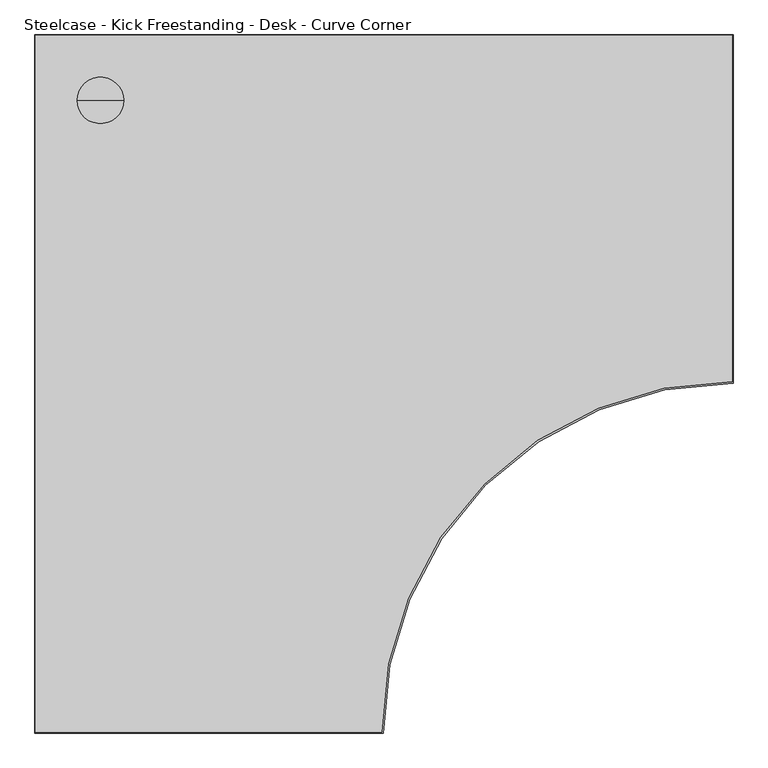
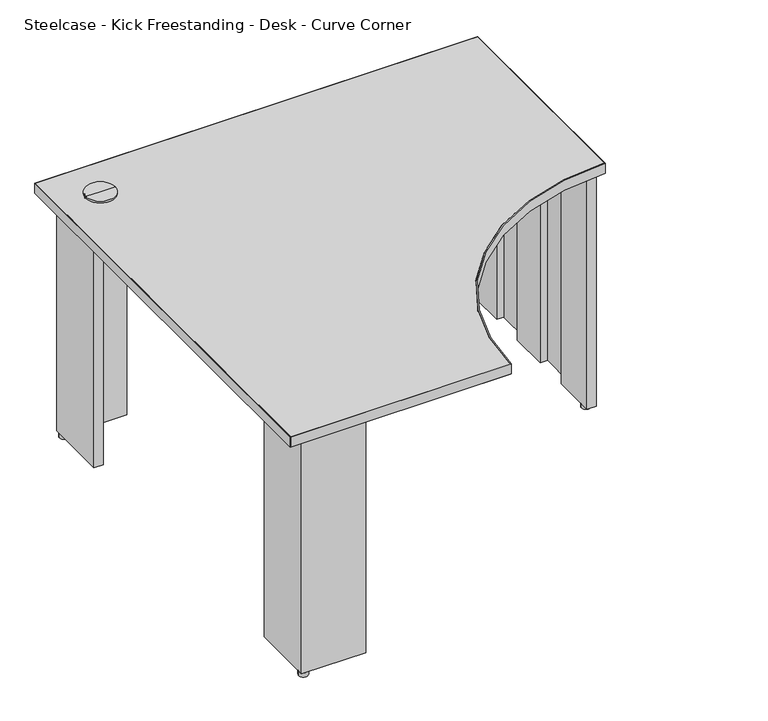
"""IFC4 building model written with IfcOpenShell, lengths in millimetres: furniture geometry, Steelcase - Kick Freestanding - Desk - Curve Corner : 24D x 48W - Right Full End Panel/Left Clear Access Support - LPL."""

from ifc_helpers import new_model, si_unit, point, frame, frame_2d, origin, origin_with_axes, place, context, project, spatial, polyline, circle_curve, trimmed, segment, composite_curve, outline, extrude, source, transform, mapped, element, save
from ifc_brep_helpers import plane_surface, cylinder_surface, advanced_brep


def steelcase_kick_freestanding_desk_curve_corner_b5b7e844(model_context):
    return source(origin(), model_context, "Body", "SolidModel", [
        extrude(outline(composite_curve([segment(trimmed(circle_curve(frame_2d((1191.2853521, -565.8064761)), 12.7), [point((1178.5853521, -565.8064761))], [point((1203.9853521, -565.8064761))], False, "CARTESIAN"), True, "CONTINUOUS"), segment(trimmed(circle_curve(frame_2d((1191.2853521, -565.8064761)), 12.7), [point((1203.9853521, -565.8064761))], [point((1178.5853521, -565.8064761))], False, "CARTESIAN"), True, "CONTINUOUS")], self_intersect=False)), origin_with_axes(), (0.0, 0.0, 1.0), 12.446),
        extrude(outline(polyline([(215.8999939, -63.5), (63.5, -63.5), (63.5, -215.8999939), (38.1, -215.8999939), (38.1, -38.1), (215.8999939, -38.1), (215.8999939, -63.5)])), frame((0.0, 0.0, 12.446), z_axis=(0.0, 0.0, 1.0), x_axis=(1.0, 0.0, 0.0)), (0.0, 0.0, 1.0), 682.498),
        extrude(outline(polyline([(1026.4393822, -63.5), (1026.4393822, -38.1), (1204.2393579, -38.1), (1204.2393579, -592.582), (1178.3313463, -592.582), (1178.3313463, -469.5444), (1198.498945, -469.5444), (1198.498945, -369.824), (1178.3313463, -369.824), (1178.3313463, -261.0866), (1198.498945, -261.0866), (1198.498945, -161.3662), (1178.3313463, -161.3662), (1178.3313463, -63.5), (1026.4393822, -63.5)])), frame((0.0, 0.0, 12.446), z_axis=(0.0, 0.0, 1.0), x_axis=(1.0, 0.0, 0.0)), (0.0, 0.0, 1.0), 682.498),
        advanced_brep(
        [(114.3, -114.3, 728.98), (154.94, -114.3, 728.98), (73.66, -114.3, 728.98), (76.1699693, -114.3, 694.944), (152.4300307, -114.3, 694.944), (114.3, -114.3, 694.944), (76.1699693, -114.3, 723.9), (152.4300307, -114.3, 723.9), (73.66, -114.3, 723.9), (154.94, -114.3, 723.9)],
        [
            (0, 1),
            (1, 2, circle_curve(frame((114.3, -114.3, 728.98), z_axis=(0.0, 0.0, 1.0), x_axis=(1.0, 0.0, 0.0)), 40.64)),
            (2, 0),
            (2, 1, circle_curve(frame((114.3, -114.3, 728.98), z_axis=(0.0, 0.0, 1.0), x_axis=(1.0, 0.0, 0.0)), 40.64)),
            (3, 4, circle_curve(frame((114.3, -114.3, 694.944), z_axis=(0.0, 0.0, -1.0), x_axis=(1.0, 0.0, 0.0)), 38.1300307)),
            (4, 5),
            (5, 3),
            (4, 3, circle_curve(frame((114.3, -114.3, 694.944), z_axis=(0.0, 0.0, -1.0), x_axis=(1.0, 0.0, 0.0)), 38.1300307)),
            (6, 7, circle_curve(frame((114.3, -114.3, 723.9), z_axis=(0.0, 0.0, -1.0), x_axis=(1.0, 0.0, 0.0)), 38.1300307)),
            (7, 4),
            (3, 6),
            (7, 6, circle_curve(frame((114.3, -114.3, 723.9), z_axis=(0.0, 0.0, -1.0), x_axis=(1.0, 0.0, 0.0)), 38.1300307)),
            (8, 9, circle_curve(frame((114.3, -114.3, 723.9), z_axis=(0.0, 0.0, -1.0), x_axis=(1.0, 0.0, 0.0)), 40.64)),
            (9, 7),
            (6, 8),
            (9, 8, circle_curve(frame((114.3, -114.3, 723.9), z_axis=(0.0, 0.0, -1.0), x_axis=(1.0, 0.0, 0.0)), 40.64)),
            (1, 9),
            (8, 2),
        ],
        [
            plane_surface(frame((114.3, -114.3, 728.98), z_axis=(0.0, 0.0, 1.0), x_axis=(1.0, 0.0, 0.0))),
            plane_surface(frame((114.3, -114.3, 694.944), z_axis=(0.0, 0.0, -1.0), x_axis=(1.0, 0.0, 0.0))),
            cylinder_surface(frame((114.3, -114.3, 728.98), z_axis=(0.0, 0.0, 1.0), x_axis=(1.0, 0.0, 0.0)), 38.1300307),
            plane_surface(frame((114.3, -114.3, 723.9), z_axis=(0.0, 0.0, -1.0), x_axis=(1.0, 0.0, 0.0))),
            cylinder_surface(frame((114.3, -114.3, 728.98), z_axis=(0.0, 0.0, 1.0), x_axis=(1.0, 0.0, 0.0)), 40.64),
        ],
        [
            (0, [[1, 2, 3]]),
            (0, [[-3, 4, -1]]),
            (1, [[5, 6, 7]]),
            (1, [[8, -7, -6]]),
            (2, [[9, 10, -5, 11]]),
            (2, [[12, -11, -8, -10]]),
            (3, [[13, 14, -9, 15]]),
            (3, [[16, -15, -12, -14]]),
            (4, [[-2, 17, -13, 18]]),
            (4, [[-4, -18, -16, -17]]),
        ],
    ),
        extrude(outline(composite_curve([segment(trimmed(circle_curve(frame_2d((50.8, -50.8)), 12.7), [point((38.1, -50.8))], [point((63.5, -50.8))], False, "CARTESIAN"), True, "CONTINUOUS"), segment(trimmed(circle_curve(frame_2d((50.8, -50.8)), 12.7), [point((63.5, -50.8))], [point((38.1, -50.8))], False, "CARTESIAN"), True, "CONTINUOUS")], self_intersect=False)), origin_with_axes(), (0.0, 0.0, 1.0), 12.446),
        extrude(outline(composite_curve([segment(trimmed(circle_curve(frame_2d((50.8, -1192.5300073)), 12.7484998), [point((38.0515002, -1192.5300073))], [point((63.5484998, -1192.5300073))], False, "CARTESIAN"), True, "CONTINUOUS"), segment(trimmed(circle_curve(frame_2d((50.8, -1192.5300073)), 12.7484998), [point((63.5484998, -1192.5300073))], [point((38.0515002, -1192.5300073))], False, "CARTESIAN"), True, "CONTINUOUS")], self_intersect=False)), origin_with_axes(), (0.0, 0.0, 1.0), 12.446),
        extrude(outline(composite_curve([segment(trimmed(circle_curve(frame_2d((1191.2853521, -50.8)), 12.7), [point((1178.5853521, -50.8))], [point((1203.9853521, -50.8))], False, "CARTESIAN"), True, "CONTINUOUS"), segment(trimmed(circle_curve(frame_2d((1191.2853521, -50.8)), 12.7), [point((1203.9853521, -50.8))], [point((1178.5853521, -50.8))], False, "CARTESIAN"), True, "CONTINUOUS")], self_intersect=False)), origin_with_axes(), (0.0, 0.0, 1.0), 12.446),
        extrude(outline(polyline([(215.8999939, -1179.8300194), (215.8999939, -1205.2299952), (38.1, -1205.2299952), (38.1, -1027.4300194), (63.5, -1027.4300194), (63.5, -1179.8300194), (215.8999939, -1179.8300194)])), frame((0.0, 0.0, 12.446), z_axis=(0.0, 0.0, 1.0), x_axis=(1.0, 0.0, 0.0)), (0.0, 0.0, 1.0), 682.498),
        extrude(outline(composite_curve([segment(polyline([(0.9906, -1218.2093628), (0.9906, -0.9906), (1218.2093628, -0.9906), (1218.2093628, -605.3354109)]), True, "CONTINUOUS"), segment(trimmed(circle_curve(frame_2d((1216.9393458, -1216.9393458)), 611.6052536), [point((1218.2093628, -605.3354109))], [point((605.3354109, -1218.2093628))], True, "CARTESIAN"), True, "CONTINUOUS"), segment(polyline([(605.3354109, -1218.2093628), (0.9906, -1218.2093628)]), True, "CONTINUOUS")], self_intersect=False)), frame((0.0, 0.0, 694.944), z_axis=(0.0, 0.0, 1.0), x_axis=(1.0, 0.0, 0.0)), (0.0, 0.0, 1.0), 28.956),
        extrude(outline(composite_curve([segment(polyline([(1219.2, 0.0), (1219.2, -608.332629)]), True, "CONTINUOUS"), segment(trimmed(circle_curve(frame_2d((1217.929983, -1217.929983)), 609.598677), [point((1219.2, -608.332629))], [point((608.332629, -1219.2))], True, "CARTESIAN"), True, "CONTINUOUS"), segment(polyline([(608.332629, -1219.2), (0.0, -1219.2), (0.0, 0.0), (1219.2, 0.0)]), True, "CONTINUOUS")], self_intersect=False), holes=[composite_curve([segment(polyline([(1218.2093628, -0.9906), (0.9906, -0.9906), (0.9906, -1218.2093628), (605.3354109, -1218.2093628)]), True, "CONTINUOUS"), segment(trimmed(circle_curve(frame_2d((1216.9393458, -1216.9393458)), 611.6052536), [point((605.3354109, -1218.2093628))], [point((1218.2093628, -605.3354109))], False, "CARTESIAN"), True, "CONTINUOUS"), segment(polyline([(1218.2093628, -605.3354109), (1218.2093628, -0.9906)]), True, "CONTINUOUS")], self_intersect=False)]), frame((0.0, 0.0, 694.944), z_axis=(0.0, 0.0, 1.0), x_axis=(1.0, 0.0, 0.0)), (0.0, 0.0, 1.0), 28.956),
    ])


if __name__ == "__main__":
    model = new_model("IFC4")
    model_context = context("Model", 3, world=origin())
    ifc_project = project(units=[si_unit("LENGTHUNIT", "METRE", prefix="MILLI")], contexts=[model_context])
    site = spatial("IfcSite", under=ifc_project)
    building = spatial("IfcBuilding", under=site)
    placement = place(None, origin())
    steelcase_kick_freestanding_desk_curve_corner_shape = steelcase_kick_freestanding_desk_curve_corner_b5b7e844(model_context)
    element("IfcFurniture", 1, ObjectType="Steelcase - Kick Freestanding - Desk - Curve Corner : 24D x 48W - Right Full End Panel/Left Clear Access Support - LPL", at=placement, inside=building, context=model_context, shape_type="MappedRepresentation", body=[
        mapped(steelcase_kick_freestanding_desk_curve_corner_shape, transform((0.0, 0.0, 0.0), x_axis=(1.0, 0.0, 0.0), y_axis=(0.0, 1.0, 0.0), z_axis=(0.0, 0.0, 1.0))),
    ])
    save(model, "model.ifc")
